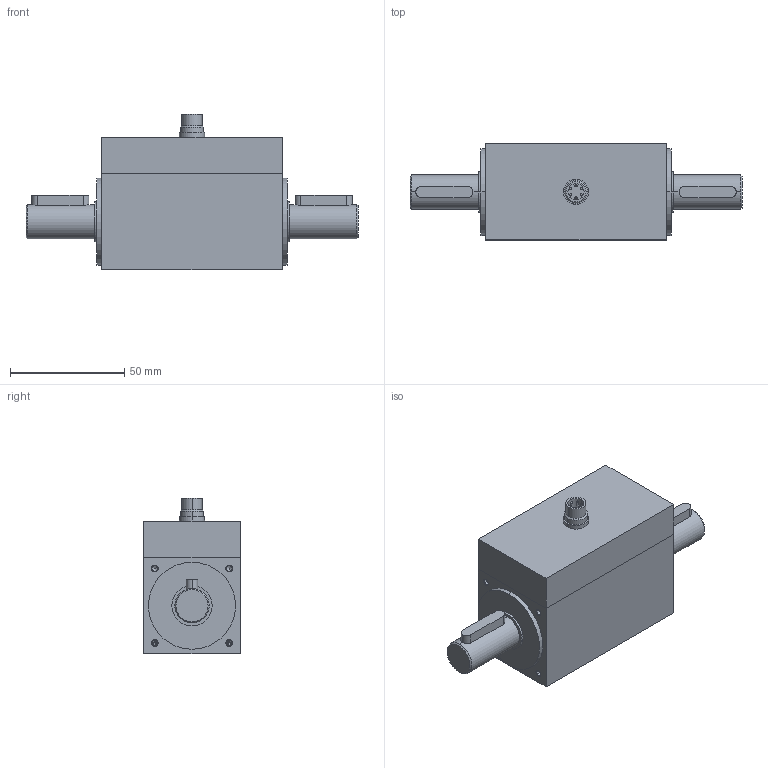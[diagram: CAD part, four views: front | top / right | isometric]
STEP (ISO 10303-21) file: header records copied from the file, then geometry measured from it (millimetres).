
FILE_DESCRIPTION(('STEP AP203'),'1');
FILE_NAME('C:/TPO v2/SharedFS/Outgoing/burster_8651-5010_c0gej9m9d9aok03q8ccs0eis0.stp','2013-08-28T19:19:48',('TraceParts'),('TraceParts S.A.'),'XStep 1.0',' ',' ');
FILE_SCHEMA(('CONFIG_CONTROL_DESIGN'));
Length unit declared in the file: millimetre
Products named in the file (1): 1
Bounding box: 145 x 42 x 68 mm (x, y, z)
Volume: 209122.6 mm3; surface area: 25714.4 mm2
Topology: 1 solids, 1 shells, 199 faces, 454 edges, 272 vertices
Faces by surface type: cylinder 96, cone 58, plane 45
Entity records: 6168 total; most frequent: CARTESIAN_POINT 1626, DIRECTION 1006, ORIENTED_EDGE 876, EDGE_CURVE 438, AXIS2_PLACEMENT_3D 408, VERTEX_POINT 272, EDGE_LOOP 238, CIRCLE 208
